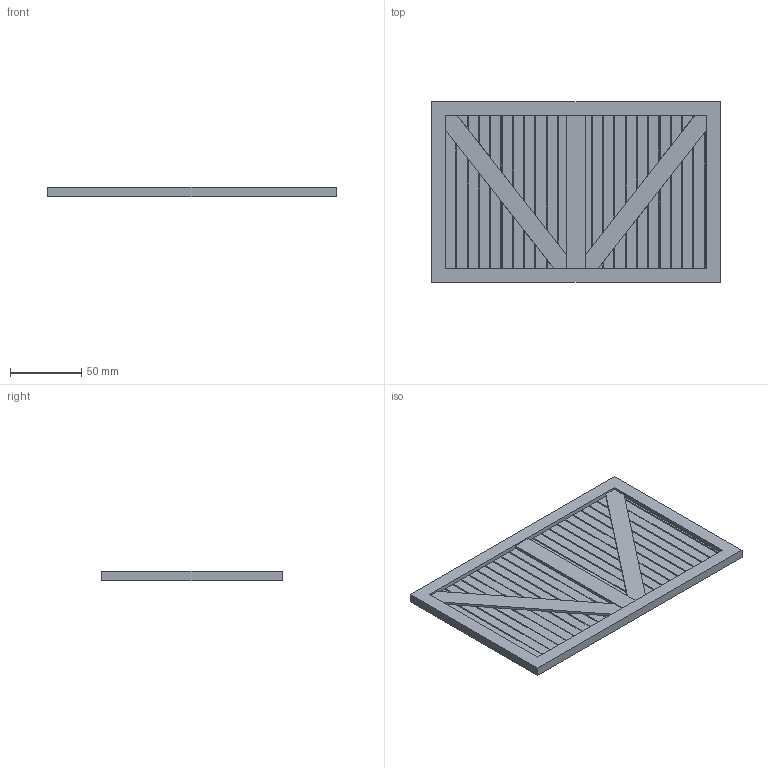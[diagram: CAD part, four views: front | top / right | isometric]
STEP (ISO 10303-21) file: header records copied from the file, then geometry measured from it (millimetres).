
FILE_DESCRIPTION (( 'STEP AP203' ), '1' );
FILE_NAME ('lid.STEP', '2018-02-28T19:21:11', ( '' ), ( '' ), 'SwSTEP 2.0', 'SolidWorks 2015', '' );
FILE_SCHEMA (( 'CONFIG_CONTROL_DESIGN' ));
Length unit declared in the file: inch
Products named in the file (1): lid
Bounding box: 203.2 x 127 x 6.35 mm (x, y, z)
Volume: 108764.2 mm3; surface area: 60214.5 mm2
Topology: 1 solids, 1 shells, 137 faces, 402 edges, 268 vertices
Faces by surface type: plane 137
Entity records: 4535 total; most frequent: CARTESIAN_POINT 808, ORIENTED_EDGE 804, DIRECTION 678, LINE 402, VECTOR 402, EDGE_CURVE 402, VERTEX_POINT 268, AXIS2_PLACEMENT_3D 138
